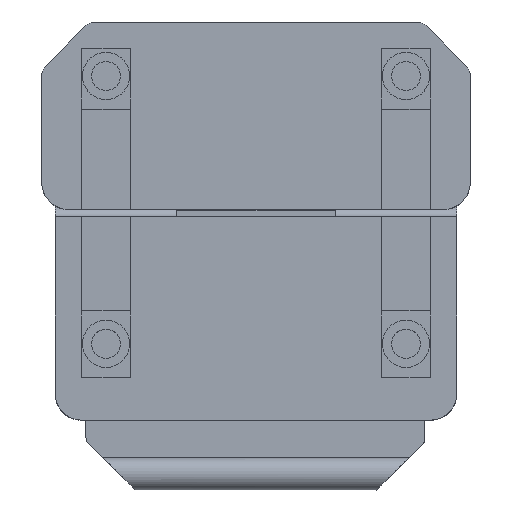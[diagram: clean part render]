
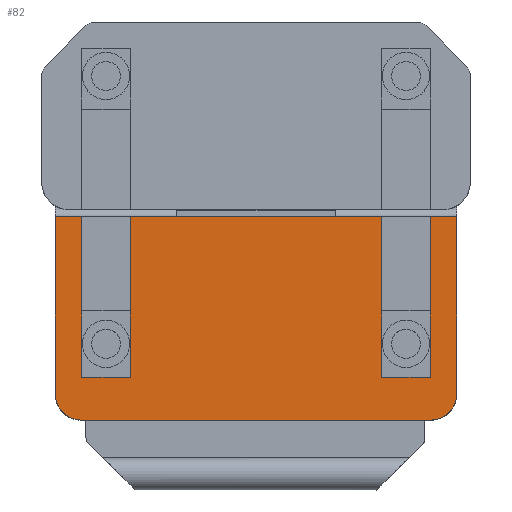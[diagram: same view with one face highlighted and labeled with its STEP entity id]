
A CAD part, top view. The second image highlights one B-rep face of the part: STEP entity #82.
In plain terms, the highlighted planar face has unit normal (0, 0, 1).
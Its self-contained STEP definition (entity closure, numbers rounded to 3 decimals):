
#35 = LINE ( 'NONE', #2603, #2595 ) ;
#82 = ADVANCED_FACE ( 'NONE', ( #1633 ), #6046, .T. ) ;
#84 = CARTESIAN_POINT ( 'NONE',  ( 37.5, -18.444, 0. ) ) ;
#102 = CARTESIAN_POINT ( 'NONE',  ( 37.5, -19.514, 0. ) ) ;
#189 = ORIENTED_EDGE ( 'NONE', *, *, #5572, .T. ) ;
#252 = EDGE_CURVE ( 'NONE', #1492, #2278, #4363, .T. ) ;
#312 = VERTEX_POINT ( 'NONE', #4287 ) ;
#404 = CARTESIAN_POINT ( 'NONE',  ( -37.5, -18.444, 0. ) ) ;
#473 = DIRECTION ( 'NONE',  ( 0., 0., 1. ) ) ;
#508 = DIRECTION ( 'NONE',  ( 0., -1., 0. ) ) ;
#509 = LINE ( 'NONE', #5389, #1698 ) ;
#518 = LINE ( 'NONE', #4235, #1314 ) ;
#614 = CARTESIAN_POINT ( 'NONE',  ( -23.5, -18.444, 0. ) ) ;
#669 = ORIENTED_EDGE ( 'NONE', *, *, #3577, .T. ) ;
#678 = ORIENTED_EDGE ( 'NONE', *, *, #2281, .T. ) ;
#687 = EDGE_CURVE ( 'NONE', #5566, #4631, #5552, .T. ) ;
#720 = CARTESIAN_POINT ( 'NONE',  ( -23.5, -49.514, 0. ) ) ;
#735 = VECTOR ( 'NONE', #1651, 1000. ) ;
#781 = CARTESIAN_POINT ( 'NONE',  ( 23.5, -18.444, 0. ) ) ;
#1064 = VERTEX_POINT ( 'NONE', #720 ) ;
#1085 = VERTEX_POINT ( 'NONE', #2215 ) ;
#1093 = CARTESIAN_POINT ( 'NONE',  ( 32.5, -19.514, 0. ) ) ;
#1314 = VECTOR ( 'NONE', #3656, 1000. ) ;
#1375 = EDGE_CURVE ( 'NONE', #3114, #5170, #1784, .T. ) ;
#1393 = DIRECTION ( 'NONE',  ( 1., 0., 0. ) ) ;
#1395 = AXIS2_PLACEMENT_3D ( 'NONE', #404, #473, #4055 ) ;
#1466 = EDGE_CURVE ( 'NONE', #1064, #1085, #509, .T. ) ;
#1480 = VECTOR ( 'NONE', #2629, 1000. ) ;
#1492 = VERTEX_POINT ( 'NONE', #6424 ) ;
#1550 = EDGE_CURVE ( 'NONE', #5170, #1492, #3779, .T. ) ;
#1633 = FACE_OUTER_BOUND ( 'NONE', #2809, .T. ) ;
#1651 = DIRECTION ( 'NONE',  ( 0., -1., 0. ) ) ;
#1698 = VECTOR ( 'NONE', #5337, 1000. ) ;
#1754 = ORIENTED_EDGE ( 'NONE', *, *, #5829, .T. ) ;
#1771 = DIRECTION ( 'NONE',  ( 1., 0., 0. ) ) ;
#1784 = LINE ( 'NONE', #2398, #4348 ) ;
#1814 = CARTESIAN_POINT ( 'NONE',  ( 32.5, -52.514, 0. ) ) ;
#2163 = CARTESIAN_POINT ( 'NONE',  ( -32.5, -52.514, 0. ) ) ;
#2215 = CARTESIAN_POINT ( 'NONE',  ( -32.5, -49.514, 0. ) ) ;
#2278 = VERTEX_POINT ( 'NONE', #102 ) ;
#2281 = EDGE_CURVE ( 'NONE', #312, #1064, #3871, .T. ) ;
#2398 = CARTESIAN_POINT ( 'NONE',  ( -37.5, -57.514, 0. ) ) ;
#2424 = DIRECTION ( 'NONE',  ( 0., -1., 0. ) ) ;
#2537 = ORIENTED_EDGE ( 'NONE', *, *, #5818, .T. ) ;
#2595 = VECTOR ( 'NONE', #5109, 1000. ) ;
#2603 = CARTESIAN_POINT ( 'NONE',  ( -37.5, -19.514, 0. ) ) ;
#2629 = DIRECTION ( 'NONE',  ( 0., 1., 0. ) ) ;
#2633 = CARTESIAN_POINT ( 'NONE',  ( -37.5, -19.514, 0. ) ) ;
#2673 = VECTOR ( 'NONE', #5709, 1000. ) ;
#2689 = DIRECTION ( 'NONE',  ( 0., 0., 1. ) ) ;
#2809 = EDGE_LOOP ( 'NONE', ( #678, #5877, #3807, #2537, #2971, #3822, #6380, #2848, #2964, #4926, #5640, #1754, #669, #189 ) ) ;
#2848 = ORIENTED_EDGE ( 'NONE', *, *, #1550, .T. ) ;
#2964 = ORIENTED_EDGE ( 'NONE', *, *, #252, .T. ) ;
#2971 = ORIENTED_EDGE ( 'NONE', *, *, #4466, .T. ) ;
#3002 = CIRCLE ( 'NONE', #5111, 5. ) ;
#3110 = CARTESIAN_POINT ( 'NONE',  ( 23.5, -49.514, 0. ) ) ;
#3114 = VERTEX_POINT ( 'NONE', #6158 ) ;
#3151 = DIRECTION ( 'NONE',  ( -1., 0., 0. ) ) ;
#3168 = VERTEX_POINT ( 'NONE', #2633 ) ;
#3268 = EDGE_CURVE ( 'NONE', #5256, #3114, #3002, .T. ) ;
#3406 = VECTOR ( 'NONE', #4456, 1000. ) ;
#3577 = EDGE_CURVE ( 'NONE', #5442, #6204, #6571, .T. ) ;
#3637 = CARTESIAN_POINT ( 'NONE',  ( -37.5, -49.514, 0. ) ) ;
#3656 = DIRECTION ( 'NONE',  ( -1., 0., 0. ) ) ;
#3779 = CIRCLE ( 'NONE', #5464, 5. ) ;
#3807 = ORIENTED_EDGE ( 'NONE', *, *, #5079, .T. ) ;
#3822 = ORIENTED_EDGE ( 'NONE', *, *, #3268, .T. ) ;
#3854 = VECTOR ( 'NONE', #4873, 1000. ) ;
#3871 = LINE ( 'NONE', #614, #735 ) ;
#3916 = CARTESIAN_POINT ( 'NONE',  ( -37.5, -19.514, 0. ) ) ;
#3950 = CARTESIAN_POINT ( 'NONE',  ( -37.5, -18.444, 0. ) ) ;
#4055 = DIRECTION ( 'NONE',  ( 1., 0., 0. ) ) ;
#4080 = EDGE_CURVE ( 'NONE', #2278, #5566, #4418, .T. ) ;
#4235 = CARTESIAN_POINT ( 'NONE',  ( -37.5, -19.514, 0. ) ) ;
#4247 = LINE ( 'NONE', #3950, #4882 ) ;
#4287 = CARTESIAN_POINT ( 'NONE',  ( -23.5, -19.514, 0. ) ) ;
#4348 = VECTOR ( 'NONE', #1393, 1000. ) ;
#4363 = LINE ( 'NONE', #84, #1480 ) ;
#4418 = LINE ( 'NONE', #3916, #5612 ) ;
#4456 = DIRECTION ( 'NONE',  ( 0., 1., 0. ) ) ;
#4466 = EDGE_CURVE ( 'NONE', #3168, #5256, #4247, .T. ) ;
#4589 = LINE ( 'NONE', #6443, #3406 ) ;
#4610 = CARTESIAN_POINT ( 'NONE',  ( 32.5, -18.444, 0. ) ) ;
#4631 = VERTEX_POINT ( 'NONE', #6103 ) ;
#4873 = DIRECTION ( 'NONE',  ( 0., 1., 0. ) ) ;
#4882 = VECTOR ( 'NONE', #2424, 1000. ) ;
#4926 = ORIENTED_EDGE ( 'NONE', *, *, #4080, .T. ) ;
#4969 = CARTESIAN_POINT ( 'NONE',  ( -37.5, -52.514, 0. ) ) ;
#5079 = EDGE_CURVE ( 'NONE', #1085, #5646, #4589, .T. ) ;
#5109 = DIRECTION ( 'NONE',  ( -1., 0., 0. ) ) ;
#5111 = AXIS2_PLACEMENT_3D ( 'NONE', #2163, #2689, #3151 ) ;
#5170 = VERTEX_POINT ( 'NONE', #5376 ) ;
#5228 = CARTESIAN_POINT ( 'NONE',  ( -32.5, -19.514, 0. ) ) ;
#5256 = VERTEX_POINT ( 'NONE', #4969 ) ;
#5289 = DIRECTION ( 'NONE',  ( 0., 0., 1. ) ) ;
#5337 = DIRECTION ( 'NONE',  ( -1., 0., 0. ) ) ;
#5376 = CARTESIAN_POINT ( 'NONE',  ( 32.5, -57.514, 0. ) ) ;
#5389 = CARTESIAN_POINT ( 'NONE',  ( -37.5, -49.514, 0. ) ) ;
#5442 = VERTEX_POINT ( 'NONE', #3110 ) ;
#5464 = AXIS2_PLACEMENT_3D ( 'NONE', #1814, #5289, #1771 ) ;
#5525 = CARTESIAN_POINT ( 'NONE',  ( 23.5, -19.514, 0. ) ) ;
#5552 = LINE ( 'NONE', #4610, #5787 ) ;
#5566 = VERTEX_POINT ( 'NONE', #1093 ) ;
#5572 = EDGE_CURVE ( 'NONE', #6204, #312, #518, .T. ) ;
#5612 = VECTOR ( 'NONE', #6422, 1000. ) ;
#5640 = ORIENTED_EDGE ( 'NONE', *, *, #687, .T. ) ;
#5646 = VERTEX_POINT ( 'NONE', #5228 ) ;
#5709 = DIRECTION ( 'NONE',  ( -1., 0., 0. ) ) ;
#5787 = VECTOR ( 'NONE', #508, 1000. ) ;
#5818 = EDGE_CURVE ( 'NONE', #5646, #3168, #35, .T. ) ;
#5829 = EDGE_CURVE ( 'NONE', #4631, #5442, #6498, .T. ) ;
#5877 = ORIENTED_EDGE ( 'NONE', *, *, #1466, .T. ) ;
#6046 = PLANE ( 'NONE',  #1395 ) ;
#6103 = CARTESIAN_POINT ( 'NONE',  ( 32.5, -49.514, 0. ) ) ;
#6158 = CARTESIAN_POINT ( 'NONE',  ( -32.5, -57.514, 0. ) ) ;
#6204 = VERTEX_POINT ( 'NONE', #5525 ) ;
#6380 = ORIENTED_EDGE ( 'NONE', *, *, #1375, .T. ) ;
#6422 = DIRECTION ( 'NONE',  ( -1., 0., 0. ) ) ;
#6424 = CARTESIAN_POINT ( 'NONE',  ( 37.5, -52.514, 0. ) ) ;
#6443 = CARTESIAN_POINT ( 'NONE',  ( -32.5, -18.444, 0. ) ) ;
#6498 = LINE ( 'NONE', #3637, #2673 ) ;
#6571 = LINE ( 'NONE', #781, #3854 ) ;
